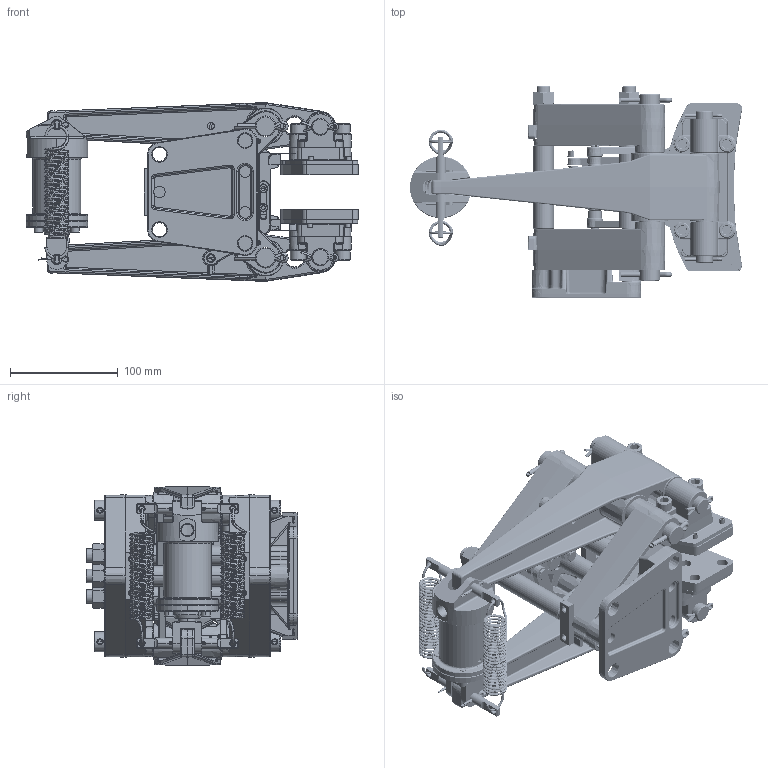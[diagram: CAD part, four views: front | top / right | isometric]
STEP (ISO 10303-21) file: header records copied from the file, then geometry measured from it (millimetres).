
FILE_DESCRIPTION (( 'STEP AP214' ), '1' );
FILE_NAME ('5020-H.STEP', '2016-02-04T22:19:54', ( 'User' ), ( 'Microsoft' ), 'SwSTEP 2.0', 'SolidWorks 2015', '' );
FILE_SCHEMA (( 'AUTOMOTIVE_DESIGN' ));
Length unit declared in the file: inch
Products named in the file (1): 5020-H
Bounding box: 307.96 x 195.9 x 165.86 mm (x, y, z)
Surface area: 513362.5 mm2 (no closed solid volume)
Topology: 0 solids, 147 shells, 2513 faces, 7405 edges, 4840 vertices
Faces by surface type: plane 751, cylinder 749, cone 498, torus 340, bspline 160, sphere 15
Entity records: 141763 total; most frequent: CARTESIAN_POINT 44027, DIRECTION 14239, ORIENTED_EDGE 12410, EDGE_CURVE 7362, AXIS2_PLACEMENT_3D 5594, VERTEX_POINT 4840, CIRCLE 3240, VECTOR 3051
